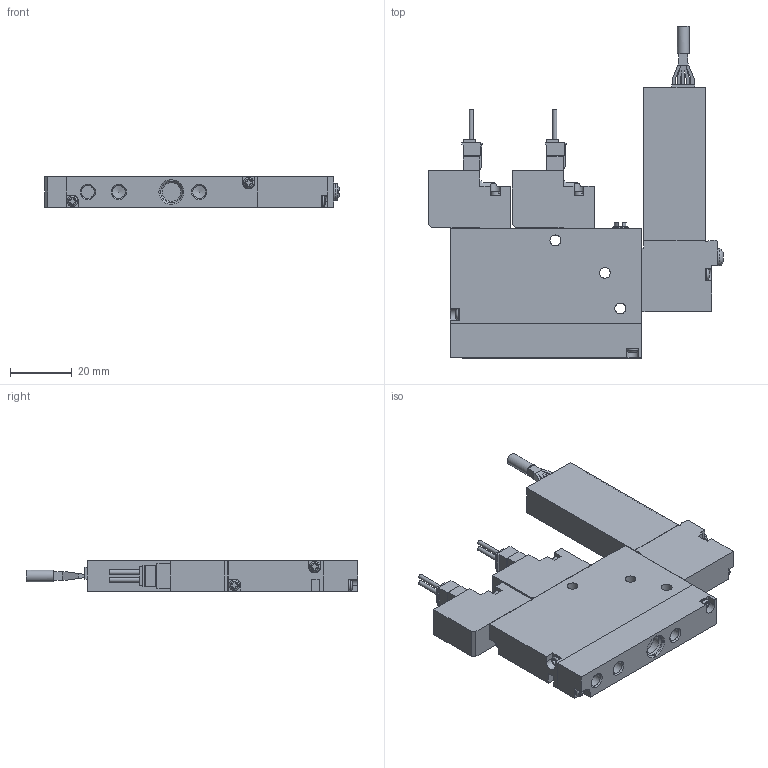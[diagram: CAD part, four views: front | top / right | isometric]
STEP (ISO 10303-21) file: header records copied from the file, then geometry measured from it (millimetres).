
FILE_DESCRIPTION(('STEP AP203'),'1');
FILE_NAME('BMPV42SV9.V9P5A(B).stp','2025-04-30T01:07:26',(' '),(' '),'Spatial InterOp 3D',' ',' ');
FILE_SCHEMA(('CONFIG_CONTROL_DESIGN'));
Length unit declared in the file: millimetre
Products named in the file (5): BMPV42SV9.V9P5A(B); VACUUM VALVE FUNCTION MPV42-A; VACUUM SENSOR MPV42-V9; UNIT-MPV42; MPV42-S10R-1
Assembly tree (5 placements, depth 2):
  BMPV42SV9.V9P5A(B)
    VACUUM VALVE FUNCTION MPV42-A  x2
    VACUUM SENSOR MPV42-V9
    UNIT-MPV42
    MPV42-S10R-1
Bounding box: 95.35 x 107.3 x 10 mm (x, y, z)
Volume: 49652.1 mm3; surface area: 19384.3 mm2
Topology: 5 solids, 5 shells, 451 faces, 1198 edges, 785 vertices
Faces by surface type: plane 336, cylinder 87, cone 14, sphere 7, torus 7
Full cylindrical faces by diameter (mm): 1.4 x4, 1.8 x1, 2.2 x2, 3 x4, 3.5 x13, 3.8 x1, 4.134 x5, 5 x1, 5.5 x1, 6 x1, 7 x1
Entity records: 10923 total; most frequent: CARTESIAN_POINT 2186, DIRECTION 1731, ORIENTED_EDGE 1702, EDGE_CURVE 851, LINE 611, VECTOR 611, VERTEX_POINT 585, AXIS2_PLACEMENT_3D 560
